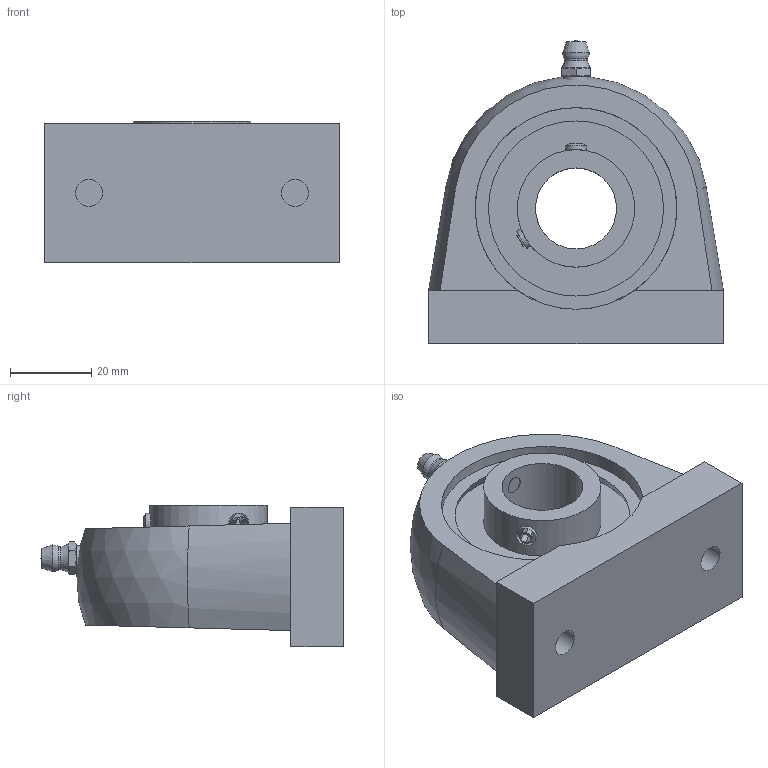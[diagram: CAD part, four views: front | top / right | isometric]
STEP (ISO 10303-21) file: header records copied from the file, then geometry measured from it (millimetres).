
FILE_DESCRIPTION(/* description */ (''),/* implementation_level */ '2;1');
FILE_NAME(/* name */ 'C:\Users\UGijyutu_200702\Desktop\77.プラスチックハウジング\MBTBL200V\MBTBL200V\MBTBL204V.stp',/* time_stamp */ '2024-05-28T11:26:59+09:00',/* author */ ('UGijyutu_200702'),/* organization */ (''),/* preprocessor_version */ 'ST-DEVELOPER v18',/* originating_system */ 'Autodesk Inventor 2020',/* authorisation */ '');
FILE_SCHEMA (('AUTOMOTIVE_DESIGN { 1 0 10303 214 3 1 1 }'));
Length unit declared in the file: millimetre
Products named in the file (4): MBTBL204V; TBL204; MB4 V; 1/4-28UNF-2A
Assembly tree (3 placements, depth 2):
  MBTBL204V
    TBL204
    MB4 V
    1/4-28UNF-2A
Bounding box: 72.8 x 74.8 x 34.95 mm (x, y, z)
Volume: 85623.2 mm3; surface area: 24092 mm2
Topology: 3 solids, 3 shells, 85 faces, 213 edges, 145 vertices
Faces by surface type: plane 46, cylinder 17, cone 15, sphere 5, torus 2
Full cylindrical faces by diameter (mm): 3.2 x1, 5 x2, 5.359 x1, 6.35 x1, 6.647 x2, 20 x1, 29 x1, 49.8 x2
Entity records: 2968 total; most frequent: CARTESIAN_POINT 703, DIRECTION 452, ORIENTED_EDGE 424, EDGE_CURVE 212, AXIS2_PLACEMENT_3D 186, VERTEX_POINT 145, EDGE_LOOP 103, FACE_OUTER_BOUND 85
